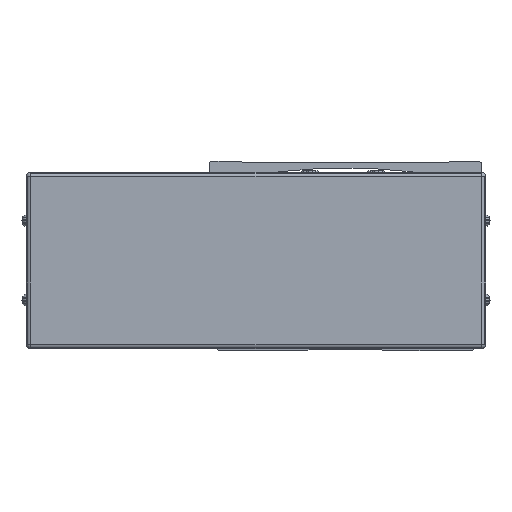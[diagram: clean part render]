
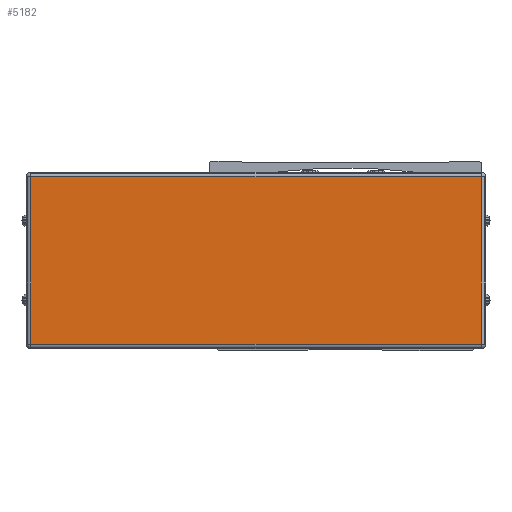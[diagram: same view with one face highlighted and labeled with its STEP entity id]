
A CAD part, front view. The second image highlights one B-rep face of the part: STEP entity #5182.
In plain terms, the highlighted planar face has unit normal (0, -1, 0).
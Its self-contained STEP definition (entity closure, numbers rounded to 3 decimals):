
#5182=ADVANCED_FACE('',(#11004),#11005,.F.);
#11004=FACE_OUTER_BOUND('',#18568,.T.);
#11005=PLANE('',#18569);
#18568=EDGE_LOOP('',(#34505,#34506,#34507,#34508));
#18569=AXIS2_PLACEMENT_3D('',#34509,#34510,#34511);
#34505=ORIENTED_EDGE('',*,*,#45991,.T.);
#34506=ORIENTED_EDGE('',*,*,#44135,.T.);
#34507=ORIENTED_EDGE('',*,*,#45992,.T.);
#34508=ORIENTED_EDGE('',*,*,#45183,.T.);
#34509=CARTESIAN_POINT('',(-340.5,-463.778,-8.));
#34510=DIRECTION('',(0.,1.0,0.));
#34511=DIRECTION('',(-1.0,0.,0.));
#44135=EDGE_CURVE('',#53207,#50447,#54245,.T.);
#45183=EDGE_CURVE('',#55710,#55708,#55711,.T.);
#45991=EDGE_CURVE('',#55708,#53207,#56722,.T.);
#45992=EDGE_CURVE('',#50447,#55710,#56723,.T.);
#50447=VERTEX_POINT('',#62697);
#53207=VERTEX_POINT('',#66881);
#54245=LINE('',#68344,#68345);
#55708=VERTEX_POINT('',#70621);
#55710=VERTEX_POINT('',#70623);
#55711=LINE('',#70624,#70625);
#56722=LINE('',#72116,#72117);
#56723=LINE('',#72118,#72119);
#62697=CARTESIAN_POINT('',(-238.3,-463.778,-46.));
#66881=CARTESIAN_POINT('',(-442.7,-463.778,-46.));
#68344=CARTESIAN_POINT('',(-340.5,-463.778,-46.));
#68345=VECTOR('',#79678,10.0);
#70621=CARTESIAN_POINT('',(-442.7,-463.778,30.));
#70623=CARTESIAN_POINT('',(-238.3,-463.778,30.));
#70624=CARTESIAN_POINT('',(-340.5,-463.778,30.));
#70625=VECTOR('',#80735,10.0);
#72116=CARTESIAN_POINT('',(-442.7,-463.778,-8.));
#72117=VECTOR('',#81544,10.0);
#72118=CARTESIAN_POINT('',(-238.3,-463.778,-8.));
#72119=VECTOR('',#81545,10.0);
#79678=DIRECTION('',(1.0,0.,0.));
#80735=DIRECTION('',(-1.0,0.,0.));
#81544=DIRECTION('',(0.0,0.,-1.0));
#81545=DIRECTION('',(0.0,0.,1.0));
